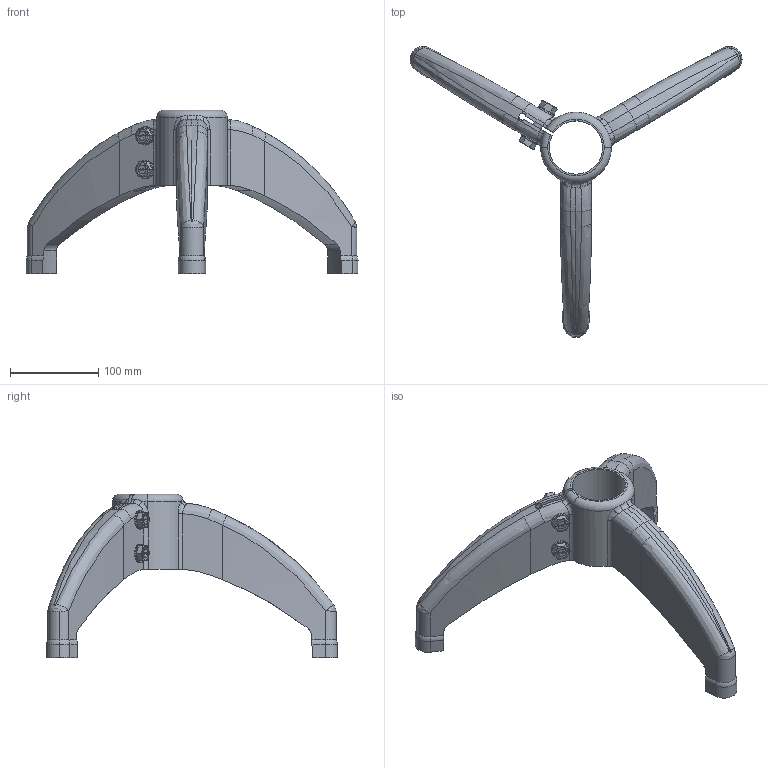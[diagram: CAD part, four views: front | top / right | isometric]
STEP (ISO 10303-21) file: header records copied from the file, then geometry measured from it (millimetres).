
FILE_DESCRIPTION (( 'STEP AP214' ), '1' );
FILE_NAME ('8310012NV.STEP', '2024-01-24T16:22:44', ( '' ), ( '' ), 'SwSTEP 2.0', 'SolidWorks 2022', '' );
FILE_SCHEMA (( 'AUTOMOTIVE_DESIGN' ));
Length unit declared in the file: millimetre
Products named in the file (1): 8310012NV
Bounding box: 375.39 x 328.96 x 185 mm (x, y, z)
Volume: 1315377.5 mm3; surface area: 177711.3 mm2
Topology: 12 solids, 12 shells, 259 faces, 599 edges, 366 vertices
Faces by surface type: cylinder 83, plane 63, torus 57, bspline 33, cone 23
Entity records: 13821 total; most frequent: CARTESIAN_POINT 8128, ORIENTED_EDGE 1198, DIRECTION 1096, EDGE_CURVE 599, AXIS2_PLACEMENT_3D 486, VERTEX_POINT 366, EDGE_LOOP 281, ADVANCED_FACE 259
